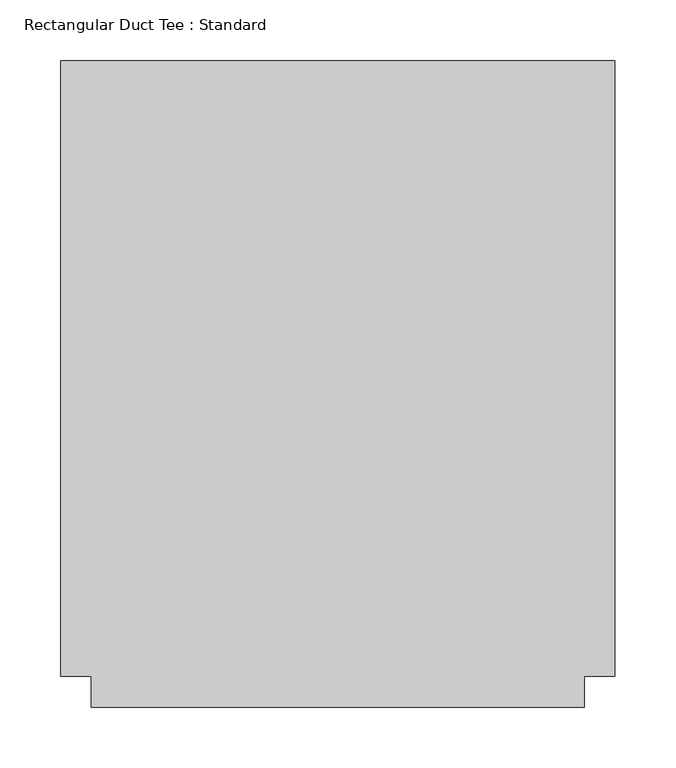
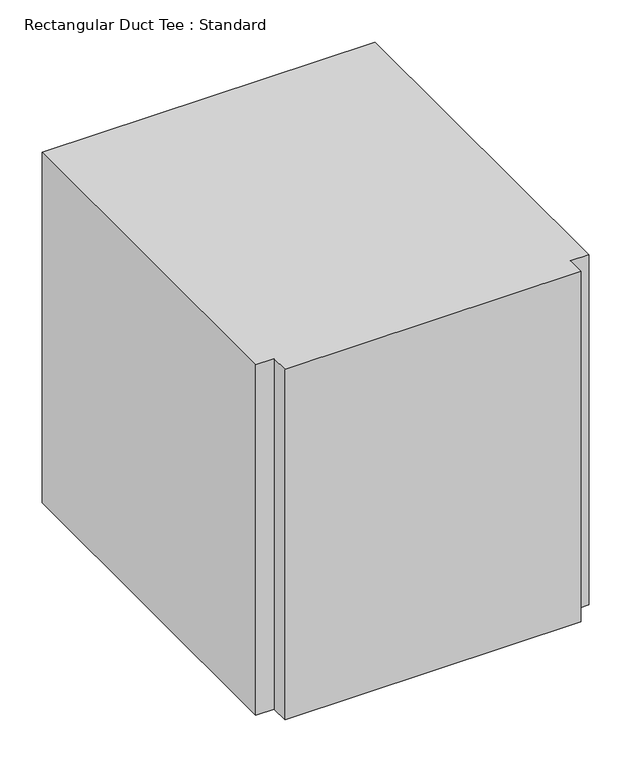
"""IFC4 building model written with IfcOpenShell, lengths in millimetres: duct fitting geometry, Rectangular Duct Tee : Standard."""

from ifc_helpers import new_model, si_unit, frame, origin, place, context, project, spatial, polyline, outline, extrude, source, transform, mapped, element, save


def rectangular_duct_tee_standard_0a25ee65(model_context):
    return source(origin(), model_context, "Body", "SweptSolid", [
        extrude(outline(polyline([(-228.6, -254.0), (-228.6, 254.0), (228.6, 254.0), (228.6, -254.0), (203.2, -254.0), (203.2, -279.4), (-203.2, -279.4), (-203.2, -254.0), (-228.6, -254.0)])), frame((0.0, 0.0, -254.0), z_axis=(0.0, 0.0, 1.0), x_axis=(1.0, 0.0, 0.0)), (0.0, 0.0, 1.0), 508.0),
        extrude(outline(polyline([(-228.6, 254.0), (228.6, 254.0), (228.6, -254.0), (203.2, -254.0), (203.2, -279.4), (-203.2, -279.4), (-203.2, -254.0), (-228.6, -254.0), (-228.6, 254.0)])), frame((0.0, 0.0, -254.0), z_axis=(0.0, 0.0, 1.0), x_axis=(1.0, 0.0, 0.0)), (0.0, 0.0, 1.0), 508.0),
        extrude(outline(polyline([(-228.6, -254.0), (-228.6, 254.0), (228.6, 254.0), (228.6, -254.0), (203.2, -254.0), (203.2, -279.4), (-203.2, -279.4), (-203.2, -254.0), (-228.6, -254.0)])), frame((0.0, 0.0, -254.0), z_axis=(0.0, 0.0, 1.0), x_axis=(1.0, 0.0, 0.0)), (0.0, 0.0, 1.0), 508.0),
    ])


if __name__ == "__main__":
    model = new_model("IFC4")
    model_context = context("Model", 3, world=origin())
    ifc_project = project(units=[si_unit("LENGTHUNIT", "METRE", prefix="MILLI")], contexts=[model_context])
    site = spatial("IfcSite", under=ifc_project)
    building = spatial("IfcBuilding", under=site)
    placement = place(None, origin())
    rectangular_duct_tee_standard_shape = rectangular_duct_tee_standard_0a25ee65(model_context)
    element("IfcDuctFitting", 1, ObjectType="Rectangular Duct Tee : Standard", at=placement, inside=building, context=model_context, shape_type="MappedRepresentation", body=[
        mapped(rectangular_duct_tee_standard_shape, transform((0.0, 0.0, 0.0), x_axis=(1.0, 0.0, 0.0), y_axis=(0.0, 1.0, 0.0), z_axis=(0.0, 0.0, 1.0))),
    ])
    save(model, "model.ifc")
